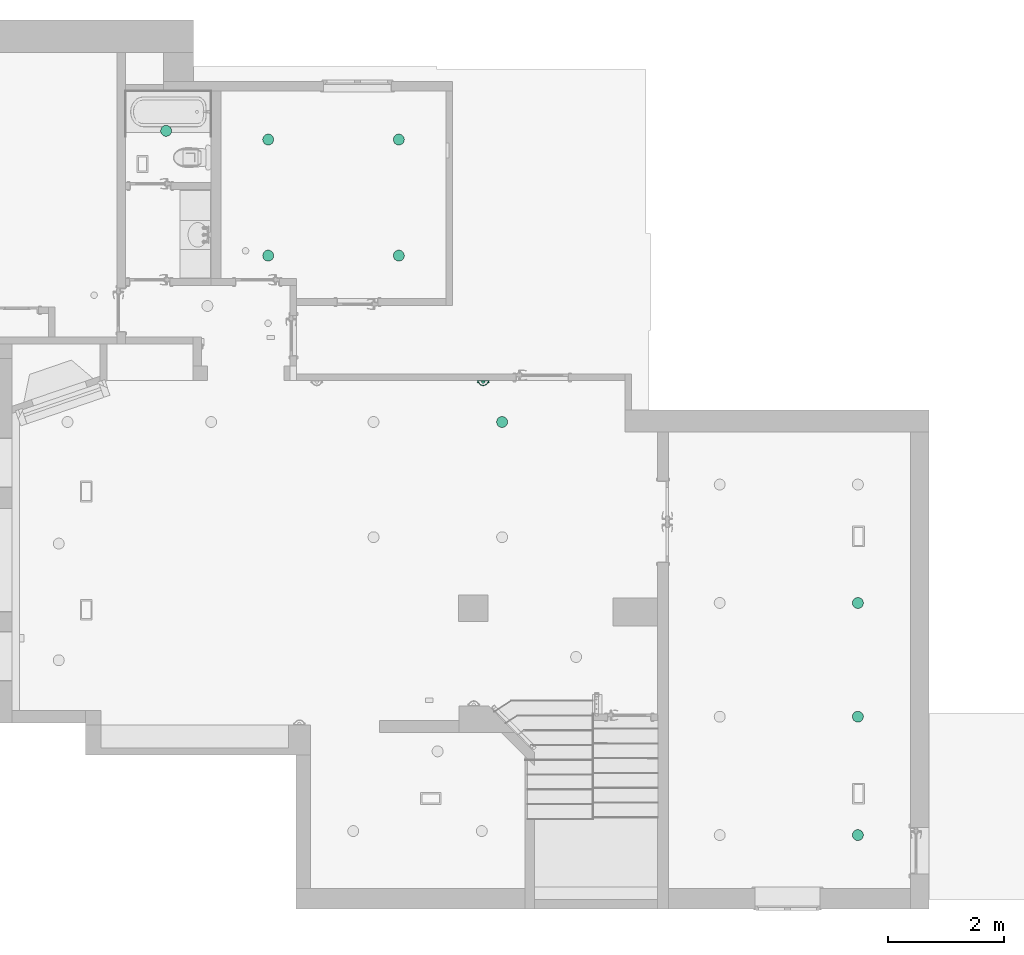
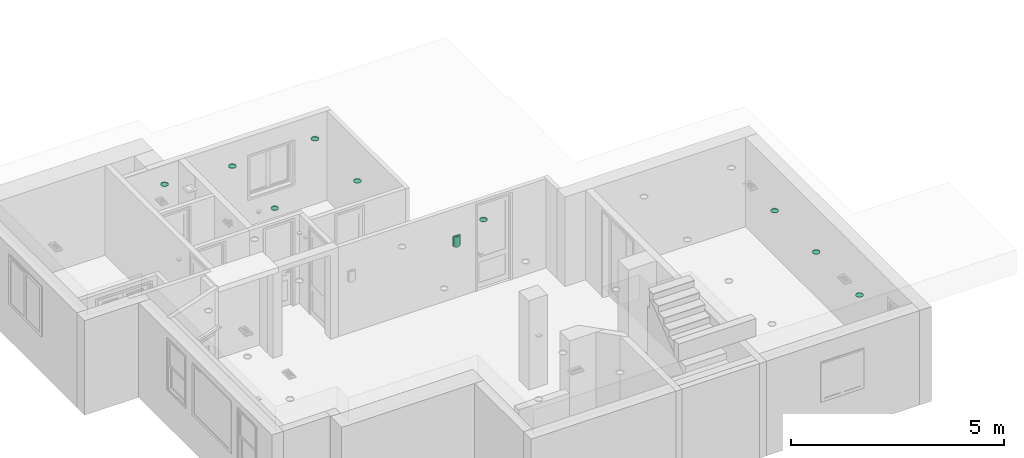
# One storey, part 16 of 24: 10 flow terminals.
"""IFC2X3 building model written with IfcOpenShell, lengths in inches."""

from ifc_helpers import new_model, entity, si_unit, converted_unit, derived_unit, money_unit, direction, frame, origin_with_axes, place, context, subcontext, project, spatial, open_shell, faceted_brep, surface_model, source, transform, mapped, type_object, element, save


model = new_model("IFC2X3")

# Units and contexts
model_context = context("Model", 3, precision=0.000393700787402, world=origin_with_axes(), true_north=direction((0.0, 1.0)))
body_context = subcontext(model_context, "Body", "Model", "MODEL_VIEW")
ifc_project = project(units=[converted_unit("LENGTHUNIT", "INCH", entity("IfcPositiveLengthMeasure", 0.0254), si_unit("LENGTHUNIT", "METRE"), dimensions=[1, 0, 0, 0, 0, 0, 0]), converted_unit("AREAUNIT", "SQUARE_FOOT", entity("IfcPositiveLengthMeasure", 0.09290304), si_unit("AREAUNIT", "SQUARE_METRE"), dimensions=[2, 0, 0, 0, 0, 0, 0]), si_unit("PLANEANGLEUNIT", "RADIAN"), si_unit("SOLIDANGLEUNIT", "STERADIAN"), money_unit("USD"), converted_unit("TIMEUNIT", "Year", entity("IfcTimeMeasure", 31556926.0), si_unit("TIMEUNIT", "SECOND"), dimensions=[0, 0, 1, 0, 0, 0, 0]), si_unit("MASSUNIT", "GRAM", prefix="KILO"), si_unit("THERMODYNAMICTEMPERATUREUNIT", "DEGREE_CELSIUS"), si_unit("LUMINOUSINTENSITYUNIT", "LUMEN"), si_unit("ENERGYUNIT", "JOULE", prefix="MEGA"), derived_unit("THERMALCONDUCTANCEUNIT", [(si_unit("POWERUNIT", "WATT"), 1), (si_unit("LENGTHUNIT", "METRE"), -1), (si_unit("THERMODYNAMICTEMPERATUREUNIT", "KELVIN"), -1)]), derived_unit("SPECIFICHEATCAPACITYUNIT", [(si_unit("ENERGYUNIT", "JOULE"), 1), (si_unit("MASSUNIT", "GRAM", prefix="KILO"), -1), (si_unit("THERMODYNAMICTEMPERATUREUNIT", "KELVIN"), -1)]), derived_unit("MASSDENSITYUNIT", [(si_unit("MASSUNIT", "GRAM", prefix="KILO"), 1), (si_unit("VOLUMEUNIT", "CUBIC_METRE"), -1)])], contexts=[model_context])

# Site, building, storey
site_placement = place(None, origin_with_axes())
site = spatial("IfcSite", under=ifc_project, at=site_placement, Name="Site", CompositionType="ELEMENT")
building_placement = place(site_placement, origin_with_axes())
building = spatial("IfcBuilding", under=site, at=building_placement, Name="Building", CompositionType="ELEMENT")
storey_placement = place(building_placement, origin_with_axes())
storey = spatial("IfcBuildingStorey", under=building, at=storey_placement, Name="First Floor", CompositionType="ELEMENT", Elevation=0.0)

# Flow terminals
light_fixture_type_1 = type_object("IfcLightFixtureType", Name="Recessed Spot 25", PredefinedType="NOTDEFINED")
shared_shape_1 = source(origin_with_axes(), body_context, "Body", "SurfaceModel", [
    faceted_brep([(3.74015748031, 0.0, -0.590551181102), (3.51459838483, 1.27920919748, -0.590551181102), (3.51459838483, 1.27920919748, 0.0), (3.74015748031, 0.0, 0.0), (3.51459838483, -1.27920919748, -0.590551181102), (2.86512685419, -2.40412688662, -0.590551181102), (1.87007874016, -3.23907139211, -0.590551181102), (0.649471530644, -3.6833360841, -0.590551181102), (-0.649471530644, -3.6833360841, -0.590551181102), (-1.87007874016, -3.23907139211, -0.590551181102), (-2.86512685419, -2.40412688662, -0.590551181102), (-3.51459838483, -1.27920919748, -0.590551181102), (-3.74015748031, 0.0, -0.590551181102), (-3.51459838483, 1.27920919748, -0.590551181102), (-2.86512685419, 2.40412688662, -0.590551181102), (-1.87007874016, 3.23907139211, -0.590551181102), (-0.649471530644, 3.6833360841, -0.590551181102), (0.649471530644, 3.6833360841, -0.590551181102), (1.87007874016, 3.23907139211, -0.590551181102), (2.86512685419, 2.40412688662, -0.590551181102), (3.14960629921, 0.0, -0.590551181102), (2.95966179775, 1.07722879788, -0.590551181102), (2.41273840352, 2.02452790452, -0.590551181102), (1.57480314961, 2.72763906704, -0.590551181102), (0.546923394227, 3.1017567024, -0.590551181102), (-0.546923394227, 3.1017567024, -0.590551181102), (-1.57480314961, 2.72763906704, -0.590551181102), (-2.41273840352, 2.02452790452, -0.590551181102), (-2.95966179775, 1.07722879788, -0.590551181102), (-3.14960629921, 0.0, -0.590551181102), (-2.95966179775, -1.07722879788, -0.590551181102), (-2.41273840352, -2.02452790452, -0.590551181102), (-1.57480314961, -2.72763906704, -0.590551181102), (-0.546923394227, -3.1017567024, -0.590551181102), (0.546923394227, -3.1017567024, -0.590551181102), (1.57480314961, -2.72763906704, -0.590551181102), (2.41273840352, -2.02452790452, -0.590551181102), (2.95966179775, -1.07722879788, -0.590551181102), (2.86512685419, 2.40412688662, 0.0), (1.87007874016, 3.23907139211, 0.0), (0.649471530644, 3.6833360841, 0.0), (-0.649471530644, 3.6833360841, 0.0), (-1.87007874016, 3.23907139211, 0.0), (-2.86512685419, 2.40412688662, 0.0), (-3.51459838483, 1.27920919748, 0.0), (-3.74015748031, 0.0, 0.0), (-3.51459838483, -1.27920919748, 0.0), (-2.86512685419, -2.40412688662, 0.0), (-1.87007874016, -3.23907139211, 0.0), (-0.649471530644, -3.6833360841, 0.0), (0.649471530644, -3.6833360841, 0.0), (1.87007874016, -3.23907139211, 0.0), (2.86512685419, -2.40412688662, 0.0), (3.51459838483, -1.27920919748, 0.0), (3.14960629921, 0.0, 0.0), (2.95966179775, -1.07722879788, 0.0), (2.41273840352, -2.02452790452, 0.0), (1.57480314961, -2.72763906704, 0.0), (0.546923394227, -3.1017567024, 0.0), (-0.546923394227, -3.1017567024, 0.0), (-1.57480314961, -2.72763906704, 0.0), (-2.41273840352, -2.02452790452, 0.0), (-2.95966179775, -1.07722879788, 0.0), (-3.14960629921, 0.0, 0.0), (-2.95966179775, 1.07722879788, 0.0), (-2.41273840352, 2.02452790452, 0.0), (-1.57480314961, 2.72763906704, 0.0), (-0.546923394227, 3.1017567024, 0.0), (0.546923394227, 3.1017567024, 0.0), (1.57480314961, 2.72763906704, 0.0), (2.41273840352, 2.02452790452, 0.0), (2.95966179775, 1.07722879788, 0.0)], [[[0, 1, 2, 3]], [[0, 4, 5, 6, 7, 8, 9, 10, 11, 12, 13, 14, 15, 16, 17, 18, 19, 1], [20, 21, 22, 23, 24, 25, 26, 27, 28, 29, 30, 31, 32, 33, 34, 35, 36, 37]], [[1, 19, 38, 2]], [[3, 2, 38, 39, 40, 41, 42, 43, 44, 45, 46, 47, 48, 49, 50, 51, 52, 53], [54, 55, 56, 57, 58, 59, 60, 61, 62, 63, 64, 65, 66, 67, 68, 69, 70, 71]], [[4, 0, 3, 53]], [[5, 4, 53, 52]], [[6, 5, 52, 51]], [[7, 6, 51, 50]], [[8, 7, 50, 49]], [[9, 8, 49, 48]], [[10, 9, 48, 47]], [[11, 10, 47, 46]], [[12, 11, 46, 45]], [[13, 12, 45, 44]], [[14, 13, 44, 43]], [[15, 14, 43, 42]], [[16, 15, 42, 41]], [[17, 16, 41, 40]], [[18, 17, 40, 39]], [[19, 18, 39, 38]], [[21, 20, 54, 71]], [[22, 21, 71, 70]], [[23, 22, 70, 69]], [[24, 23, 69, 68]], [[25, 24, 68, 67]], [[26, 25, 67, 66]], [[27, 26, 66, 65]], [[28, 27, 65, 64]], [[29, 28, 64, 63]], [[30, 29, 63, 62]], [[31, 30, 62, 61]], [[32, 31, 61, 60]], [[33, 32, 60, 59]], [[34, 33, 59, 58]], [[35, 34, 58, 57]], [[36, 35, 57, 56]], [[37, 36, 56, 55]], [[20, 37, 55, 54]]]),
    surface_model("IfcShellBasedSurfaceModel", [(3.14960629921, 0.0, -0.527559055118), (2.95966179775, -1.07722879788, -0.527559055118), (2.41273840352, -2.02452790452, -0.527559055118), (1.57480314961, -2.72763906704, -0.527559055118), (0.546923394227, -3.1017567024, -0.527559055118), (-0.546923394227, -3.1017567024, -0.527559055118), (-1.57480314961, -2.72763906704, -0.527559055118), (-2.41273840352, -2.02452790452, -0.527559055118), (-2.95966179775, -1.07722879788, -0.527559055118), (-3.14960629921, 0.0, -0.527559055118), (-2.95966179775, 1.07722879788, -0.527559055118), (-2.41273840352, 2.02452790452, -0.527559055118), (-1.57480314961, 2.72763906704, -0.527559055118), (-0.546923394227, 3.1017567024, -0.527559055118), (0.546923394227, 3.1017567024, -0.527559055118), (1.57480314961, 2.72763906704, -0.527559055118), (2.41273840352, 2.02452790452, -0.527559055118), (2.95966179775, 1.07722879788, -0.527559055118)], [open_shell([[[0, 1, 2, 3, 4, 5, 6, 7, 8, 9, 10, 11, 12, 13, 14, 15, 16, 17]]])]),
])
for number, where, z_axis, x_axis, name in (
    (1, (862.684500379, 143.034750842, 101.0), (0.0, 0.0, 1.0), (1.0, 0.0, 0.0), "L-03"),
    (2, (621.918305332, 342.454416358, 101.0), (0.0, 0.0, 1.0), (1.0, 0.0, 0.0), "L-03"),
    (3, (862.684500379, 220.003254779, 101.0), (0.0, 0.0, 1.0), (1.0, 0.0, 0.0), "L-03"),
    (4, (552.038288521, 455.033452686, 101.0), (0.0, 0.0, 1.0), (1.0, 0.0, 0.0), "L-03"),
    (5, (552.038288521, 533.576759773, 101.0), (0.0, 0.0, 1.0), (1.0, 0.0, 0.0), "L-03"),
    (6, (463.65246175, 455.033452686, 101.0), (0.0, 0.0, 1.0), (1.0, 0.0, 0.0), "L-03"),
    (7, (463.65246175, 533.576759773, 101.0), (0.0, 0.0, 1.0), (1.0, 0.0, 0.0), "L-03"),
    (8, (394.548698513, 539.482122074, 101.0), (0.0, 0.0, 1.0), (1.0, 0.0, 0.0), "L-03"),
    (9, (862.684500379, 62.9166406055, 101.0), (0.0, 0.0, 1.0), (1.0, 0.0, 0.0), "L-03"),
):
    element("IfcFlowTerminal", number, at=place(storey_placement, frame(where, z_axis=z_axis, x_axis=x_axis)), inside=storey, type_object=light_fixture_type_1, Name=name, context=body_context, shape_type="MappedRepresentation", body=[
        mapped(shared_shape_1, transform((0.0, 0.0, 0.0))),
    ])
light_fixture_type_2 = type_object("IfcLightFixtureType", Name="Wall Lamp 25", PredefinedType="NOTDEFINED")
shared_shape_2 = source(origin_with_axes(), body_context, "Body", "Brep", [
    faceted_brep([(-3.93700787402, -1.06299212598, 0.0), (-3.93700787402, -1.06299212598, 11.811023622), (-3.59199112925, -1.06314352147, 11.811023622), (-3.59199112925, -1.06314352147, 0.0), (-3.93700787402, -1.1811023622, 0.0), (-3.93700787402, -1.1811023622, 11.811023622), (-3.54330708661, -1.1811023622, 11.811023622), (-3.38969265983, -1.19623206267, 11.811023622), (-3.24198154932, -1.24103973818, 11.811023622), (-3.10585021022, -1.31380345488, 11.811023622), (-2.98653009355, -1.41172694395, 11.811023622), (-2.66966529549, -1.94556474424, 11.811023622), (-2.25851711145, -2.41069189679, 11.811023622), (-1.76760587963, -2.7906817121, 11.811023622), (-1.2142688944, -3.0721142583, 11.811023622), (-0.618048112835, -3.24505030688, 11.811023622), (0.0, -3.30338235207, 11.811023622), (0.0, -3.14960629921, 11.811023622), (-0.56588522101, -3.09835339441, 11.811023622), (-1.11335337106, -2.94626273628, 11.811023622), (-1.6245867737, -2.6982842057, 11.811023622), (-2.0829470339, -2.3624884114, 11.811023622), (-2.47351654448, -1.94980402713, 11.811023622), (-2.78358398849, -1.47366211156, 11.811023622), (-2.90306916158, -1.32652027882, 11.811023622), (-3.0505358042, -1.20743621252, 11.811023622), (-3.21953891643, -1.12161445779, 11.811023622), (-3.40269225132, -1.07280583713, 11.811023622), (-3.40269225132, -1.07280583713, 0.0), (-3.21953891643, -1.12161445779, 0.0), (-3.0505358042, -1.20743621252, 0.0), (-2.90306916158, -1.32652027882, 0.0), (-2.78358398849, -1.47366211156, 0.0), (-2.47351654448, -1.94980402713, 0.0), (-2.0829470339, -2.3624884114, 0.0), (-1.6245867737, -2.6982842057, 0.0), (-1.11335337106, -2.94626273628, 0.0), (-0.56588522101, -3.09835339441, 0.0), (0.0, -3.14960629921, 0.0), (0.0, -3.30338235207, 0.0), (-0.618048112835, -3.24505030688, 0.0), (-1.2142688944, -3.0721142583, 0.0), (-1.76760587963, -2.7906817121, 0.0), (-2.25851711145, -2.41069189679, 0.0), (-2.66966529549, -1.94556474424, 0.0), (-2.98653009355, -1.41172694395, 0.0), (-3.10585021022, -1.31380345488, 0.0), (-3.24198154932, -1.24103973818, 0.0), (-3.38969265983, -1.19623206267, 0.0), (-3.54330708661, -1.1811023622, 0.0)], [[[0, 1, 2, 3]], [[4, 5, 1, 0]], [[1, 5, 6, 7, 8, 9, 10, 11, 12, 13, 14, 15, 16, 17, 18, 19, 20, 21, 22, 23, 24, 25, 26, 27, 2]], [[3, 2, 27, 28]], [[0, 3, 28, 29, 30, 31, 32, 33, 34, 35, 36, 37, 38, 39, 40, 41, 42, 43, 44, 45, 46, 47, 48, 49, 4]], [[49, 6, 5, 4]], [[48, 7, 6, 49]], [[47, 8, 7, 48]], [[46, 9, 8, 47]], [[45, 10, 9, 46]], [[44, 11, 10, 45]], [[43, 12, 11, 44]], [[42, 13, 12, 43]], [[41, 14, 13, 42]], [[40, 15, 14, 41]], [[39, 16, 15, 40]], [[38, 17, 16, 39]], [[37, 18, 17, 38]], [[36, 19, 18, 37]], [[35, 20, 19, 36]], [[34, 21, 20, 35]], [[33, 22, 21, 34]], [[32, 23, 22, 33]], [[31, 24, 23, 32]], [[30, 25, 24, 31]], [[29, 26, 25, 30]], [[28, 27, 26, 29]]]),
    faceted_brep([(3.93700787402, -1.06299212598, 0.0), (3.59199112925, -1.06314352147, 0.0), (3.59199112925, -1.06314352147, 11.811023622), (3.93700787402, -1.06299212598, 11.811023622), (3.93700787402, -1.1811023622, 0.0), (3.54330708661, -1.1811023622, 0.0), (3.38969265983, -1.19623206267, 0.0), (3.24198154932, -1.24103973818, 0.0), (3.10585021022, -1.31380345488, 0.0), (2.98653009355, -1.41172694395, 0.0), (2.66966529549, -1.94556474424, 0.0), (2.25851711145, -2.41069189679, 0.0), (1.76760587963, -2.7906817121, 0.0), (1.2142688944, -3.0721142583, 0.0), (0.618048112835, -3.24505030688, 0.0), (0.0, -3.30338235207, 0.0), (0.0, -3.14960629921, 0.0), (0.56588522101, -3.09835339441, 0.0), (1.11335337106, -2.94626273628, 0.0), (1.6245867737, -2.6982842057, 0.0), (2.0829470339, -2.3624884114, 0.0), (2.47351654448, -1.94980402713, 0.0), (2.78358398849, -1.47366211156, 0.0), (2.90306916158, -1.32652027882, 0.0), (3.0505358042, -1.20743621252, 0.0), (3.21953891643, -1.12161445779, 0.0), (3.40269225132, -1.07280583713, 0.0), (3.40269225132, -1.07280583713, 11.811023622), (3.21953891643, -1.12161445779, 11.811023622), (3.0505358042, -1.20743621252, 11.811023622), (2.90306916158, -1.32652027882, 11.811023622), (2.78358398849, -1.47366211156, 11.811023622), (2.47351654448, -1.94980402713, 11.811023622), (2.0829470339, -2.3624884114, 11.811023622), (1.6245867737, -2.6982842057, 11.811023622), (1.11335337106, -2.94626273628, 11.811023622), (0.56588522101, -3.09835339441, 11.811023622), (0.0, -3.14960629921, 11.811023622), (0.0, -3.30338235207, 11.811023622), (0.618048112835, -3.24505030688, 11.811023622), (1.2142688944, -3.0721142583, 11.811023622), (1.76760587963, -2.7906817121, 11.811023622), (2.25851711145, -2.41069189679, 11.811023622), (2.66966529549, -1.94556474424, 11.811023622), (2.98653009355, -1.41172694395, 11.811023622), (3.10585021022, -1.31380345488, 11.811023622), (3.24198154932, -1.24103973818, 11.811023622), (3.38969265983, -1.19623206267, 11.811023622), (3.54330708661, -1.1811023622, 11.811023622), (3.93700787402, -1.1811023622, 11.811023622)], [[[0, 1, 2, 3]], [[0, 4, 5, 6, 7, 8, 9, 10, 11, 12, 13, 14, 15, 16, 17, 18, 19, 20, 21, 22, 23, 24, 25, 26, 1]], [[1, 26, 27, 2]], [[3, 2, 27, 28, 29, 30, 31, 32, 33, 34, 35, 36, 37, 38, 39, 40, 41, 42, 43, 44, 45, 46, 47, 48, 49]], [[4, 0, 3, 49]], [[5, 4, 49, 48]], [[6, 5, 48, 47]], [[7, 6, 47, 46]], [[8, 7, 46, 45]], [[9, 8, 45, 44]], [[10, 9, 44, 43]], [[11, 10, 43, 42]], [[12, 11, 42, 41]], [[13, 12, 41, 40]], [[14, 13, 40, 39]], [[15, 14, 39, 38]], [[16, 15, 38, 37]], [[17, 16, 37, 36]], [[18, 17, 36, 35]], [[19, 18, 35, 34]], [[20, 19, 34, 33]], [[21, 20, 33, 32]], [[22, 21, 32, 31]], [[23, 22, 31, 30]], [[24, 23, 30, 29]], [[25, 24, 29, 28]], [[26, 25, 28, 27]]]),
    faceted_brep([(-3.14960629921, 0.0, 0.0), (3.14960629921, 0.0, 0.0), (3.14960629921, -0.0393700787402, 0.0), (-3.14960629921, -0.0393700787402, 0.0), (-3.303220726, 0.0, 0.0151297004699), (-3.45093183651, 0.0, 0.0599373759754), (-3.58706317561, 0.0, 0.132701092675), (-3.70638329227, 0.0, 0.230624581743), (-3.80430678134, 0.0, 0.34994469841), (-3.87707049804, 0.0, 0.486076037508), (-3.92187817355, 0.0, 0.633787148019), (-3.93700787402, 0.0, 0.787401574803), (-3.93700787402, 0.0, 11.0236220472), (-3.92187817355, 0.0, 11.177236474), (-3.87707049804, 0.0, 11.3249475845), (-3.80430678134, 0.0, 11.4610789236), (-3.70638329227, 0.0, 11.5803990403), (-3.58706317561, 0.0, 11.6783225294), (-3.45093183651, 0.0, 11.7510862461), (-3.303220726, 0.0, 11.7958939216), (-3.14960629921, 0.0, 11.811023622), (3.14960629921, 0.0, 11.811023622), (3.303220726, 0.0, 11.7958939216), (3.45093183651, 0.0, 11.7510862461), (3.58706317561, 0.0, 11.6783225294), (3.70638329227, 0.0, 11.5803990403), (3.80430678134, 0.0, 11.4610789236), (3.87707049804, 0.0, 11.3249475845), (3.92187817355, 0.0, 11.177236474), (3.93700787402, 0.0, 11.0236220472), (3.93700787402, 0.0, 0.787401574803), (3.92187817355, 0.0, 0.633787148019), (3.87707049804, 0.0, 0.486076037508), (3.80430678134, 0.0, 0.34994469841), (3.70638329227, 0.0, 0.230624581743), (3.58706317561, 0.0, 0.132701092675), (3.45093183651, 0.0, 0.0599373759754), (3.303220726, 0.0, 0.0151297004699), (3.303220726, -0.0393700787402, 0.0151297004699), (3.45093183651, -0.0393700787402, 0.0599373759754), (3.58706317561, -0.0393700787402, 0.132701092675), (3.70638329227, -0.0393700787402, 0.230624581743), (3.80430678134, -0.0393700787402, 0.34994469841), (3.87707049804, -0.0393700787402, 0.486076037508), (3.92187817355, -0.0393700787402, 0.633787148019), (3.93700787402, -0.0393700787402, 0.787401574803), (3.93700787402, -0.0393700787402, 11.0236220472), (3.92187817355, -0.0393700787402, 11.177236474), (3.87707049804, -0.0393700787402, 11.3249475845), (3.80430678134, -0.0393700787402, 11.4610789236), (3.70638329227, -0.0393700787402, 11.5803990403), (3.58706317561, -0.0393700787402, 11.6783225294), (3.45093183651, -0.0393700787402, 11.7510862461), (3.303220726, -0.0393700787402, 11.7958939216), (3.14960629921, -0.0393700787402, 11.811023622), (-3.14960629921, -0.0393700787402, 11.811023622), (-3.303220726, -0.0393700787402, 11.7958939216), (-3.45093183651, -0.0393700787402, 11.7510862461), (-3.58706317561, -0.0393700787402, 11.6783225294), (-3.70638329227, -0.0393700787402, 11.5803990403), (-3.80430678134, -0.0393700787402, 11.4610789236), (-3.87707049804, -0.0393700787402, 11.3249475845), (-3.92187817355, -0.0393700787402, 11.177236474), (-3.93700787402, -0.0393700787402, 11.0236220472), (-3.93700787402, -0.0393700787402, 0.787401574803), (-3.92187817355, -0.0393700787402, 0.633787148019), (-3.87707049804, -0.0393700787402, 0.486076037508), (-3.80430678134, -0.0393700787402, 0.34994469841), (-3.70638329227, -0.0393700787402, 0.230624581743), (-3.58706317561, -0.0393700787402, 0.132701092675), (-3.45093183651, -0.0393700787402, 0.0599373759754), (-3.303220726, -0.0393700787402, 0.0151297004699)], [[[0, 1, 2, 3]], [[0, 4, 5, 6, 7, 8, 9, 10, 11, 12, 13, 14, 15, 16, 17, 18, 19, 20, 21, 22, 23, 24, 25, 26, 27, 28, 29, 30, 31, 32, 33, 34, 35, 36, 37, 1]], [[1, 37, 38, 2]], [[3, 2, 38, 39, 40, 41, 42, 43, 44, 45, 46, 47, 48, 49, 50, 51, 52, 53, 54, 55, 56, 57, 58, 59, 60, 61, 62, 63, 64, 65, 66, 67, 68, 69, 70, 71]], [[4, 0, 3, 71]], [[5, 4, 71, 70]], [[6, 5, 70, 69]], [[7, 6, 69, 68]], [[8, 7, 68, 67]], [[9, 8, 67, 66]], [[10, 9, 66, 65]], [[11, 10, 65, 64]], [[12, 11, 64, 63]], [[13, 12, 63, 62]], [[14, 13, 62, 61]], [[15, 14, 61, 60]], [[16, 15, 60, 59]], [[17, 16, 59, 58]], [[18, 17, 58, 57]], [[19, 18, 57, 56]], [[20, 19, 56, 55]], [[21, 20, 55, 54]], [[22, 21, 54, 53]], [[23, 22, 53, 52]], [[24, 23, 52, 51]], [[25, 24, 51, 50]], [[26, 25, 50, 49]], [[27, 26, 49, 48]], [[28, 27, 48, 47]], [[29, 28, 47, 46]], [[30, 29, 46, 45]], [[31, 30, 45, 44]], [[32, 31, 44, 43]], [[33, 32, 43, 42]], [[34, 33, 42, 41]], [[35, 34, 41, 40]], [[36, 35, 40, 39]], [[37, 36, 39, 38]]]),
    faceted_brep([(-3.66141732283, -0.0393700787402, 0.393700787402), (-3.66141732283, -1.22047244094, 0.393700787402), (-3.60236220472, -1.22047244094, 0.495987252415), (-3.60236220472, -0.0393700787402, 0.495987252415), (-3.60236220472, -0.0393700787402, 0.291414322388), (-3.60236220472, -1.22047244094, 0.291414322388), (-3.4842519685, -1.22047244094, 0.291414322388), (-3.42519685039, -1.22047244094, 0.393700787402), (-3.4842519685, -1.22047244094, 0.495987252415), (-3.4842519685, -0.0393700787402, 0.495987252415), (-3.42519685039, -0.0393700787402, 0.393700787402), (-3.4842519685, -0.0393700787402, 0.291414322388)], [[[0, 1, 2, 3]], [[4, 5, 1, 0]], [[1, 5, 6, 7, 8, 2]], [[3, 2, 8, 9]], [[0, 3, 9, 10, 11, 4]], [[11, 6, 5, 4]], [[10, 7, 6, 11]], [[9, 8, 7, 10]]]),
    faceted_brep([(3.42519685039, -0.0393700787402, 0.393700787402), (3.42519685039, -1.22047244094, 0.393700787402), (3.4842519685, -1.22047244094, 0.495987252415), (3.4842519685, -0.0393700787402, 0.495987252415), (3.4842519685, -0.0393700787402, 0.291414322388), (3.4842519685, -1.22047244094, 0.291414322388), (3.60236220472, -1.22047244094, 0.291414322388), (3.66141732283, -1.22047244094, 0.393700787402), (3.60236220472, -1.22047244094, 0.495987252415), (3.60236220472, -0.0393700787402, 0.495987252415), (3.66141732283, -0.0393700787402, 0.393700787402), (3.60236220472, -0.0393700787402, 0.291414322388)], [[[0, 1, 2, 3]], [[4, 5, 1, 0]], [[1, 5, 6, 7, 8, 2]], [[3, 2, 8, 9]], [[0, 3, 9, 10, 11, 4]], [[11, 6, 5, 4]], [[10, 7, 6, 11]], [[9, 8, 7, 10]]]),
    faceted_brep([(-3.66141732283, -0.0393700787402, 11.4173228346), (-3.66141732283, -1.22047244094, 11.4173228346), (-3.60236220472, -1.22047244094, 11.5196092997), (-3.60236220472, -0.0393700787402, 11.5196092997), (-3.60236220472, -0.0393700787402, 11.3150363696), (-3.60236220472, -1.22047244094, 11.3150363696), (-3.4842519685, -1.22047244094, 11.3150363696), (-3.42519685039, -1.22047244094, 11.4173228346), (-3.4842519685, -1.22047244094, 11.5196092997), (-3.4842519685, -0.0393700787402, 11.5196092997), (-3.42519685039, -0.0393700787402, 11.4173228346), (-3.4842519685, -0.0393700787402, 11.3150363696)], [[[0, 1, 2, 3]], [[4, 5, 1, 0]], [[1, 5, 6, 7, 8, 2]], [[3, 2, 8, 9]], [[0, 3, 9, 10, 11, 4]], [[11, 6, 5, 4]], [[10, 7, 6, 11]], [[9, 8, 7, 10]]]),
    faceted_brep([(3.42519685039, -0.0393700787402, 11.4173228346), (3.42519685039, -1.22047244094, 11.4173228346), (3.4842519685, -1.22047244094, 11.5196092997), (3.4842519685, -0.0393700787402, 11.5196092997), (3.4842519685, -0.0393700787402, 11.3150363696), (3.4842519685, -1.22047244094, 11.3150363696), (3.60236220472, -1.22047244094, 11.3150363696), (3.66141732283, -1.22047244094, 11.4173228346), (3.60236220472, -1.22047244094, 11.5196092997), (3.60236220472, -0.0393700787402, 11.5196092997), (3.66141732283, -0.0393700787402, 11.4173228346), (3.60236220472, -0.0393700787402, 11.3150363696)], [[[0, 1, 2, 3]], [[4, 5, 1, 0]], [[1, 5, 6, 7, 8, 2]], [[3, 2, 8, 9]], [[0, 3, 9, 10, 11, 4]], [[11, 6, 5, 4]], [[10, 7, 6, 11]], [[9, 8, 7, 10]]]),
    faceted_brep([(0.787401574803, -0.0393700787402, 0.0), (0.787401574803, -0.0393700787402, 0.984251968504), (0.889578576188, -0.208730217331, 0.984251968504), (0.889578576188, -0.208730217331, 0.0), (-0.787401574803, -0.0393700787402, 0.0), (-0.787401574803, -0.0393700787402, 0.984251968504), (-0.889578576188, -0.208730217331, 0.984251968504), (-0.955829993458, -0.39510013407, 0.984251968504), (-0.983480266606, -0.590953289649, 0.984251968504), (-0.9714127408, -0.78838016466, 0.984251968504), (-0.920114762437, -0.979407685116, 0.984251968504), (-0.83165799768, -1.15632121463, 0.984251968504), (-0.709614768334, -1.31197610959, 0.984251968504), (-0.558913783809, -1.44008625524, 0.984251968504), (-0.385641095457, -1.53547793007, 0.984251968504), (-0.196794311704, -1.5942987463, 0.984251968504), (0.0, -1.61417322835, 0.984251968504), (0.196794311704, -1.5942987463, 0.984251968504), (0.385641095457, -1.53547793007, 0.984251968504), (0.558913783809, -1.44008625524, 0.984251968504), (0.709614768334, -1.31197610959, 0.984251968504), (0.83165799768, -1.15632121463, 0.984251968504), (0.920114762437, -0.979407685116, 0.984251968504), (0.9714127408, -0.78838016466, 0.984251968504), (0.983480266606, -0.590953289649, 0.984251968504), (0.955829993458, -0.39510013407, 0.984251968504), (0.955829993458, -0.39510013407, 0.0), (0.983480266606, -0.590953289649, 0.0), (0.9714127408, -0.78838016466, 0.0), (0.920114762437, -0.979407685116, 0.0), (0.83165799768, -1.15632121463, 0.0), (0.709614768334, -1.31197610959, 0.0), (0.558913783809, -1.44008625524, 0.0), (0.385641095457, -1.53547793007, 0.0), (0.196794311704, -1.5942987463, 0.0), (0.0, -1.61417322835, 0.0), (-0.196794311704, -1.5942987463, 0.0), (-0.385641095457, -1.53547793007, 0.0), (-0.558913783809, -1.44008625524, 0.0), (-0.709614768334, -1.31197610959, 0.0), (-0.83165799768, -1.15632121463, 0.0), (-0.920114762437, -0.979407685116, 0.0), (-0.9714127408, -0.78838016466, 0.0), (-0.983480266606, -0.590953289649, 0.0), (-0.955829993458, -0.39510013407, 0.0), (-0.889578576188, -0.208730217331, 0.0)], [[[0, 1, 2, 3]], [[4, 5, 1, 0]], [[1, 5, 6, 7, 8, 9, 10, 11, 12, 13, 14, 15, 16, 17, 18, 19, 20, 21, 22, 23, 24, 25, 2]], [[3, 2, 25, 26]], [[0, 3, 26, 27, 28, 29, 30, 31, 32, 33, 34, 35, 36, 37, 38, 39, 40, 41, 42, 43, 44, 45, 4]], [[45, 6, 5, 4]], [[44, 7, 6, 45]], [[43, 8, 7, 44]], [[42, 9, 8, 43]], [[41, 10, 9, 42]], [[40, 11, 10, 41]], [[39, 12, 11, 40]], [[38, 13, 12, 39]], [[37, 14, 13, 38]], [[36, 15, 14, 37]], [[35, 16, 15, 36]], [[34, 17, 16, 35]], [[33, 18, 17, 34]], [[32, 19, 18, 33]], [[31, 20, 19, 32]], [[30, 21, 20, 31]], [[29, 22, 21, 30]], [[28, 23, 22, 29]], [[27, 24, 23, 28]], [[26, 25, 24, 27]]]),
    faceted_brep([(0.787401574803, -0.0393700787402, 10.8267716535), (0.787401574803, -0.0393700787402, 11.811023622), (0.889578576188, -0.208730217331, 11.811023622), (0.889578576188, -0.208730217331, 10.8267716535), (-0.787401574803, -0.0393700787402, 10.8267716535), (-0.787401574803, -0.0393700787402, 11.811023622), (-0.889578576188, -0.208730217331, 11.811023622), (-0.955829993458, -0.39510013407, 11.811023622), (-0.983480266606, -0.590953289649, 11.811023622), (-0.9714127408, -0.78838016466, 11.811023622), (-0.920114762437, -0.979407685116, 11.811023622), (-0.83165799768, -1.15632121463, 11.811023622), (-0.709614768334, -1.31197610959, 11.811023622), (-0.558913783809, -1.44008625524, 11.811023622), (-0.385641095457, -1.53547793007, 11.811023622), (-0.196794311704, -1.5942987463, 11.811023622), (0.0, -1.61417322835, 11.811023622), (0.196794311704, -1.5942987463, 11.811023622), (0.385641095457, -1.53547793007, 11.811023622), (0.558913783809, -1.44008625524, 11.811023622), (0.709614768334, -1.31197610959, 11.811023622), (0.83165799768, -1.15632121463, 11.811023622), (0.920114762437, -0.979407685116, 11.811023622), (0.9714127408, -0.78838016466, 11.811023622), (0.983480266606, -0.590953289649, 11.811023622), (0.955829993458, -0.39510013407, 11.811023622), (0.955829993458, -0.39510013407, 10.8267716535), (0.983480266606, -0.590953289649, 10.8267716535), (0.9714127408, -0.78838016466, 10.8267716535), (0.920114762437, -0.979407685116, 10.8267716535), (0.83165799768, -1.15632121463, 10.8267716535), (0.709614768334, -1.31197610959, 10.8267716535), (0.558913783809, -1.44008625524, 10.8267716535), (0.385641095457, -1.53547793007, 10.8267716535), (0.196794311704, -1.5942987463, 10.8267716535), (0.0, -1.61417322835, 10.8267716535), (-0.196794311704, -1.5942987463, 10.8267716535), (-0.385641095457, -1.53547793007, 10.8267716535), (-0.558913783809, -1.44008625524, 10.8267716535), (-0.709614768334, -1.31197610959, 10.8267716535), (-0.83165799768, -1.15632121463, 10.8267716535), (-0.920114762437, -0.979407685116, 10.8267716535), (-0.9714127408, -0.78838016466, 10.8267716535), (-0.983480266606, -0.590953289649, 10.8267716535), (-0.955829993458, -0.39510013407, 10.8267716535), (-0.889578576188, -0.208730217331, 10.8267716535)], [[[0, 1, 2, 3]], [[4, 5, 1, 0]], [[1, 5, 6, 7, 8, 9, 10, 11, 12, 13, 14, 15, 16, 17, 18, 19, 20, 21, 22, 23, 24, 25, 2]], [[3, 2, 25, 26]], [[0, 3, 26, 27, 28, 29, 30, 31, 32, 33, 34, 35, 36, 37, 38, 39, 40, 41, 42, 43, 44, 45, 4]], [[45, 6, 5, 4]], [[44, 7, 6, 45]], [[43, 8, 7, 44]], [[42, 9, 8, 43]], [[41, 10, 9, 42]], [[40, 11, 10, 41]], [[39, 12, 11, 40]], [[38, 13, 12, 39]], [[37, 14, 13, 38]], [[36, 15, 14, 37]], [[35, 16, 15, 36]], [[34, 17, 16, 35]], [[33, 18, 17, 34]], [[32, 19, 18, 33]], [[31, 20, 19, 32]], [[30, 21, 20, 31]], [[29, 22, 21, 30]], [[28, 23, 22, 29]], [[27, 24, 23, 28]], [[26, 25, 24, 27]]]),
    faceted_brep([(0.787401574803, -0.0393700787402, 0.984251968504), (0.787401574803, -0.0393700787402, 10.8267716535), (0.889578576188, -0.208730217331, 10.8267716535), (0.889578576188, -0.208730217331, 0.984251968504), (-0.787401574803, -0.0393700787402, 0.984251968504), (-0.787401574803, -0.0393700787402, 10.8267716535), (-0.889578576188, -0.208730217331, 10.8267716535), (-0.955829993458, -0.39510013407, 10.8267716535), (-0.983480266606, -0.590953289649, 10.8267716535), (-0.9714127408, -0.78838016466, 10.8267716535), (-0.920114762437, -0.979407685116, 10.8267716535), (-0.83165799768, -1.15632121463, 10.8267716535), (-0.709614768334, -1.31197610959, 10.8267716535), (-0.558913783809, -1.44008625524, 10.8267716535), (-0.385641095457, -1.53547793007, 10.8267716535), (-0.196794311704, -1.5942987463, 10.8267716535), (0.0, -1.61417322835, 10.8267716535), (0.196794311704, -1.5942987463, 10.8267716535), (0.385641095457, -1.53547793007, 10.8267716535), (0.558913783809, -1.44008625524, 10.8267716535), (0.709614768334, -1.31197610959, 10.8267716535), (0.83165799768, -1.15632121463, 10.8267716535), (0.920114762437, -0.979407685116, 10.8267716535), (0.9714127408, -0.78838016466, 10.8267716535), (0.983480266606, -0.590953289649, 10.8267716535), (0.955829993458, -0.39510013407, 10.8267716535), (0.955829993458, -0.39510013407, 0.984251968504), (0.983480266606, -0.590953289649, 0.984251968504), (0.9714127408, -0.78838016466, 0.984251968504), (0.920114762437, -0.979407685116, 0.984251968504), (0.83165799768, -1.15632121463, 0.984251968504), (0.709614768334, -1.31197610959, 0.984251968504), (0.558913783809, -1.44008625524, 0.984251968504), (0.385641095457, -1.53547793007, 0.984251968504), (0.196794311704, -1.5942987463, 0.984251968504), (0.0, -1.61417322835, 0.984251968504), (-0.196794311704, -1.5942987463, 0.984251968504), (-0.385641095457, -1.53547793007, 0.984251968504), (-0.558913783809, -1.44008625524, 0.984251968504), (-0.709614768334, -1.31197610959, 0.984251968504), (-0.83165799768, -1.15632121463, 0.984251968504), (-0.920114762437, -0.979407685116, 0.984251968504), (-0.9714127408, -0.78838016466, 0.984251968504), (-0.983480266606, -0.590953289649, 0.984251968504), (-0.955829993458, -0.39510013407, 0.984251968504), (-0.889578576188, -0.208730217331, 0.984251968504)], [[[0, 1, 2, 3]], [[4, 5, 1, 0]], [[1, 5, 6, 7, 8, 9, 10, 11, 12, 13, 14, 15, 16, 17, 18, 19, 20, 21, 22, 23, 24, 25, 2]], [[3, 2, 25, 26]], [[0, 3, 26, 27, 28, 29, 30, 31, 32, 33, 34, 35, 36, 37, 38, 39, 40, 41, 42, 43, 44, 45, 4]], [[45, 6, 5, 4]], [[44, 7, 6, 45]], [[43, 8, 7, 44]], [[42, 9, 8, 43]], [[41, 10, 9, 42]], [[40, 11, 10, 41]], [[39, 12, 11, 40]], [[38, 13, 12, 39]], [[37, 14, 13, 38]], [[36, 15, 14, 37]], [[35, 16, 15, 36]], [[34, 17, 16, 35]], [[33, 18, 17, 34]], [[32, 19, 18, 33]], [[31, 20, 19, 32]], [[30, 21, 20, 31]], [[29, 22, 21, 30]], [[28, 23, 22, 29]], [[27, 24, 23, 28]], [[26, 25, 24, 27]]]),
])
flow_terminal_placement = place(storey_placement, frame((609.123029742, 370.407172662, 59.0551181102), z_axis=(0.0, 0.0, 1.0), x_axis=(1.0, -1.24275885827e-07, 0.0)))
element("IfcFlowTerminal", 10, at=flow_terminal_placement, inside=storey, type_object=light_fixture_type_2, Name="L-17", context=body_context, shape_type="MappedRepresentation", body=[
    mapped(shared_shape_2, transform((0.0, 0.0, 0.0))),
])

save(model, "model.ifc")
